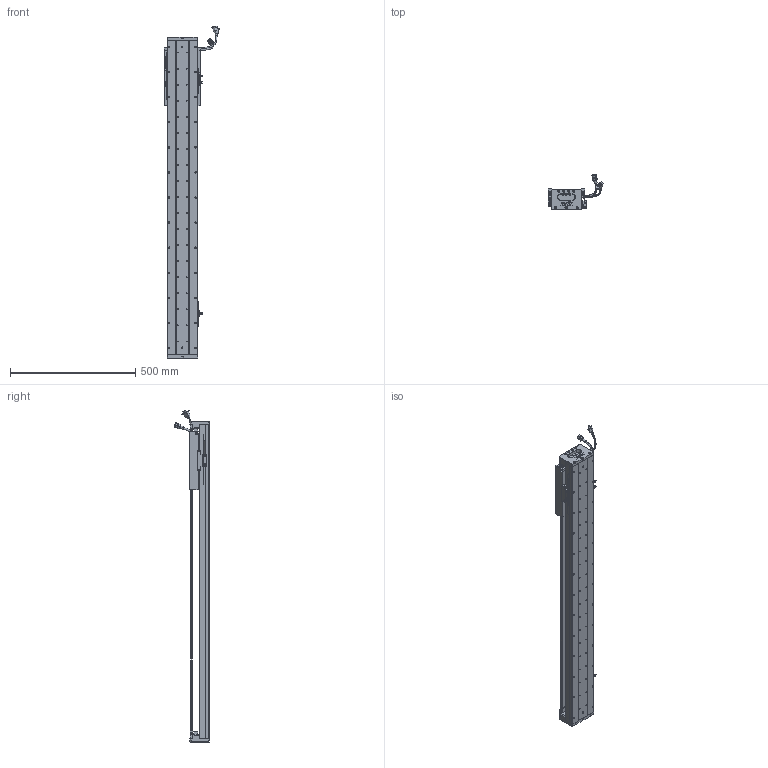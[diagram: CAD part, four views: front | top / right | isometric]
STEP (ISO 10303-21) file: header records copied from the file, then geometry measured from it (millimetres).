
FILE_DESCRIPTION (( 'STEP AP203' ), '1' );
FILE_NAME ('Z3-RY120D-1-L500-B-K.SLDASM_0950.step', '2021-05-17T05:46:47', ( '盈信电脑' ), ( '东莞市道滘镇水果街19号' ), 'SwSTEP 2.0', 'SolidWorks 2016', '' );
FILE_SCHEMA (( 'CONFIG_CONTROL_DESIGN' ));
Length unit declared in the file: millimetre
Products named in the file (37): Z3-RY120-L500詩湍100mm遵_0950; PSLH080_PSLF2; HARNESS-Part-2; SCALE; LABEL; Z-RY120D詩湍狟揤裔; SCALE-Part-2; 672嫖萇羲壽假蚾釱; Z-RY120D詩湍奻揤裔; RY100FB-遵嫖萇覜茼え; SHIELDPLATE; Z-120詩湍傷裔啣; SCREW-M1.6-2; 覜茼ん672; 140蚥薯蝶輸; SCREW-M1.6-3; HOLDER0; COVER-Part-1; Z3-RY120D-1-L500-B-K.SLDASM_0950; SCALE-Part-1; Z3-RY120-500-倰第菁釱_0950; Z3-RY120铝滑块（21款）; SCREW-M1.7; 榋妏寠巭燃_暯_M2_2; SEAL-Part-1; SCREW-M1.6; SCREW-M1.7-1; COVER; HARNESS-Part-1; HARNESS; 080黍杅芛假蚾釱21遴; SEAL; 120-Z-臏賑輸盄裔(21遴); SCREW-M1.6-1; LABEL-Part-1; 140雄赽晤鎢ん堤盄; PBU_SHEET
Assembly tree (43 placements, depth 4):
  Z3-RY120D-1-L500-B-K.SLDASM_0950
    Z3-RY120-500-倰第菁釱_0950
    覜茼ん672  x3
    672嫖萇羲壽假蚾釱  x2
    Z3-RY120铝滑块（21款）
    PSLH080_PSLF2
      SCALE
        SCALE-Part-1
        SCALE-Part-2
      HARNESS
        HARNESS-Part-1
        HARNESS-Part-2
      LABEL
        LABEL-Part-1
      COVER
        COVER-Part-1
      SEAL
        SEAL-Part-1
      榋妏寠巭燃_暯_M2_2
      SHIELDPLATE
      SCREW-M1.7
      SCREW-M1.7-1
      PBU_SHEET
      SCREW-M1.6
      SCREW-M1.6-1
      SCREW-M1.6-2
      SCREW-M1.6-3
      HOLDER0
    080黍杅芛假蚾釱21遴
    120-Z-臏賑輸盄裔(21遴)
    140雄赽晤鎢ん堤盄
    140蚥薯蝶輸  x2
    RY100FB-遵嫖萇覜茼え
    Z-120詩湍傷裔啣  x2
    Z-RY120D詩湍奻揤裔  x2
    Z-RY120D詩湍狟揤裔  x2
    Z3-RY120-L500詩湍100mm遵_0950
Bounding box: 222.88 x 140.94 x 1324 mm (x, y, z)
Volume: 3568040.8 mm3; surface area: 1200307.4 mm2
Topology: 38 solids, 38 shells, 2957 faces, 8079 edges, 5102 vertices
Faces by surface type: cylinder 1397, plane 1144, cone 294, torus 69, bspline 53
Entity records: 91042 total; most frequent: CARTESIAN_POINT 25147, ORIENTED_EDGE 13094, DIRECTION 12659, EDGE_CURVE 6547, AXIS2_PLACEMENT_3D 4640, VERTEX_POINT 4222, LINE 3379, VECTOR 3379
